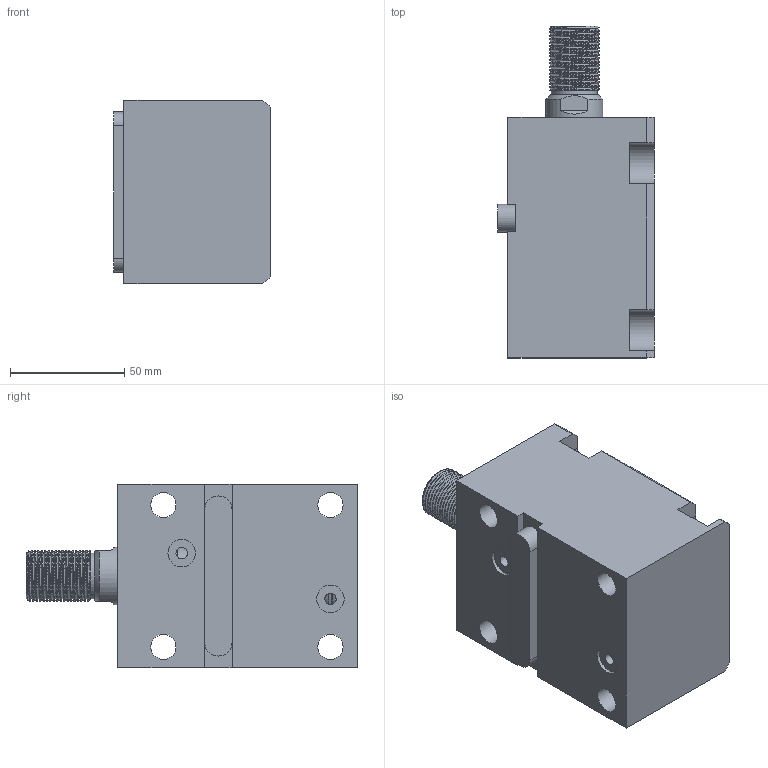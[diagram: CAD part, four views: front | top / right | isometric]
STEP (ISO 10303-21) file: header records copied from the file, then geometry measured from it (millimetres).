
FILE_DESCRIPTION(/* description */ (''),/* implementation_level */ '2;1');
FILE_NAME(/* name */ 'CHTB-lam40x50w.stp',/* time_stamp */ '2022-04-29T17:30:23+08:00',/* author */ (''),/* organization */ (''),/* preprocessor_version */ 'ST-DEVELOPER v16.7',/* originating_system */ 'SIEMENS PLM Software NX 12.0',/* authorisation */ '');
FILE_SCHEMA (('AUTOMOTIVE_DESIGN { 1 0 10303 214 3 1 1 1 }'));
Length unit declared in the file: millimetre
Products named in the file (1): CHTB-lam40x50w
Bounding box: 68.5 x 145 x 80 mm (x, y, z)
Volume: 479908.7 mm3; surface area: 91041 mm2
Topology: 4 solids, 5 shells, 488 faces, 1399 edges, 959 vertices
Faces by surface type: plane 327, extrusion 98, cylinder 40, torus 10, bspline 8, cone 5
Full cylindrical faces by diameter (mm): 4.2 x2, 5 x3, 11 x4, 12 x2, 20 x1, 25 x2, 29 x1, 34 x2, 40 x4, 45 x1
Entity records: 24286 total; most frequent: CARTESIAN_POINT 9612, ORIENTED_EDGE 2688, DIRECTION 1982, EDGE_CURVE 1344, VECTOR 1036, VERTEX_POINT 945, LINE 938, EDGE_LOOP 579
